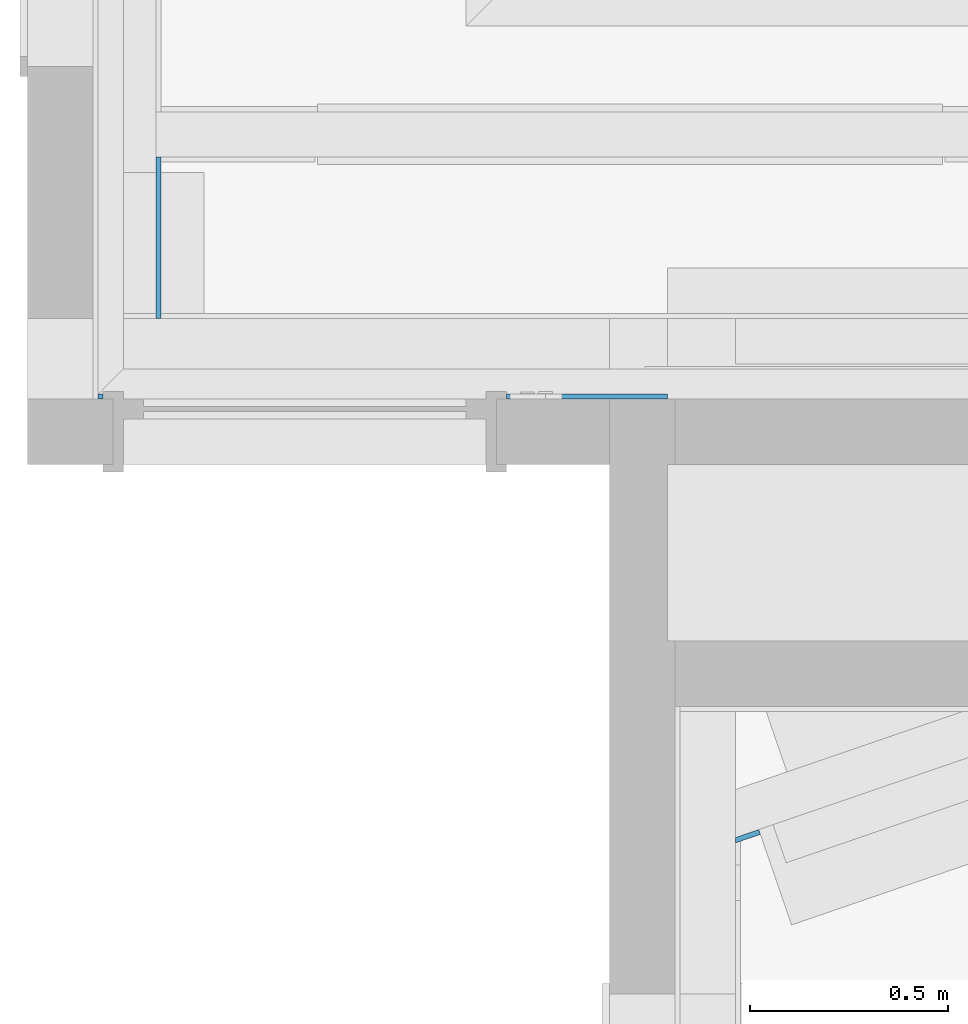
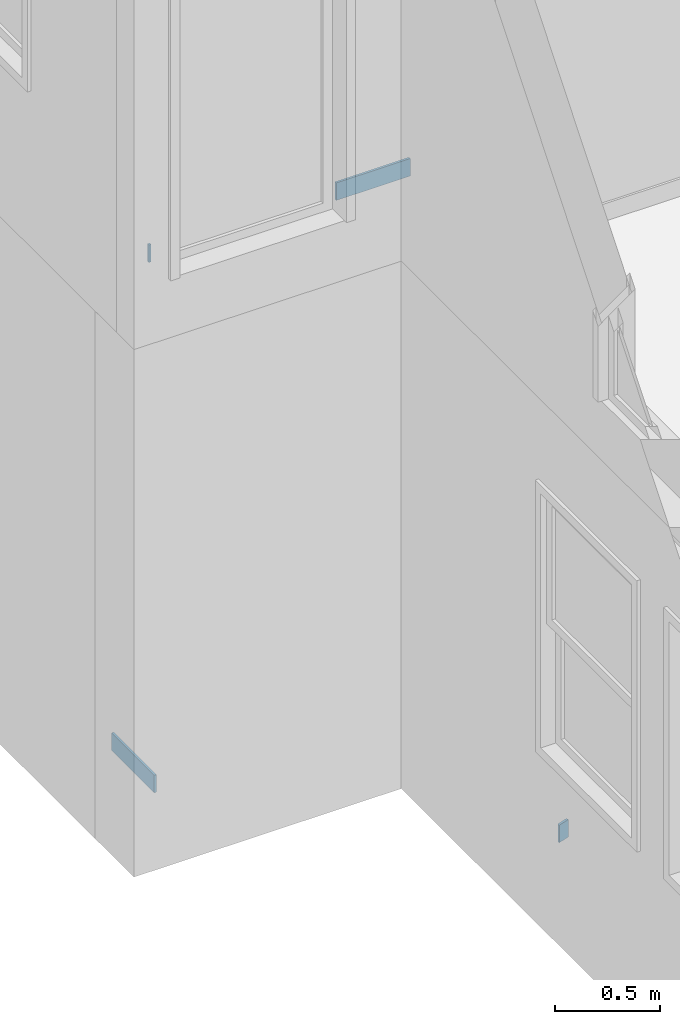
# One storey, part 18 of 60: 4 walls.
"""IFC2X3 building model written with IfcOpenShell, lengths in feet."""

from ifc_helpers import new_model, entity, si_unit, converted_unit, direction, frame, frame_2d, origin, place, context, subcontext, project, spatial, polyline, rectangle, outline, extrude, material, layer, layer_set, layer_usage, type_object, element, save


model = new_model("IFC2X3")

# Units and contexts
model_context = context("Model", 3, precision=0.0001, world=origin(), true_north=direction((6.123031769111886e-17, 1.0)))
plan_context = context("Plan", 3, precision=0.0001, world=origin(), true_north=direction((6.123031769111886e-17, 1.0)))
body_context = subcontext(model_context, "Body", "Model", "MODEL_VIEW")
ifc_project = project(units=[converted_unit("LENGTHUNIT", "FOOT", entity("IfcLengthMeasure", 0.3048), si_unit("LENGTHUNIT", "METRE"), dimensions=[1, 0, 0, 0, 0, 0, 0]), converted_unit("AREAUNIT", "SQUARE FOOT", entity("IfcAreaMeasure", 0.09290304), si_unit("AREAUNIT", "SQUARE_METRE"), dimensions=[2, 0, 0, 0, 0, 0, 0]), converted_unit("PLANEANGLEUNIT", "DEGREE", entity("IfcPlaneAngleMeasure", 0.017453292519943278), si_unit("PLANEANGLEUNIT", "RADIAN"), dimensions=[0, 0, 0, 0, 0, 0, 0])], contexts=[model_context, plan_context])

# Site, building, storey
site_placement = place(None, origin())
site = spatial("IfcSite", under=ifc_project, at=site_placement, Name="Default", CompositionType="ELEMENT")
building_placement = place(site_placement, origin())
building = spatial("IfcBuilding", under=site, at=building_placement, CompositionType="ELEMENT")
storey_placement = place(building_placement, origin())
storey = spatial("IfcBuildingStorey", under=building, at=storey_placement, Name="First floor", CompositionType="ELEMENT", Elevation=0.0)

# Walls
ifc_material = material(Name="Default New Material")
ifc_layer = layer(ifc_material, 0.041666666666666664)
ifc_layer_set = layer_set([ifc_layer], Name="Basic Wall:Wall Border_T1")
ifc_layer_usage_1 = layer_usage(ifc_layer_set, "AXIS2", "NEGATIVE", 0.020833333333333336)
wall_type = type_object("IfcWallType", Name="Basic Wall:Wall Border_T1", PredefinedType="STANDARD", material=ifc_layer_set)
wall_1_placement = place(storey_placement, frame((-15.802026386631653, 28.00435691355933, 0.0), z_axis=(0.0, 0.0, 1.0), x_axis=(-0.9456865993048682, -0.3250797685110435, 0.0)))
element("IfcWallStandardCase", 1, at=wall_1_placement, inside=storey, type_object=wall_type, material=ifc_layer_usage_1, Name="Basic Wall:Wall Border_T1", ObjectType="Basic Wall:Wall Border_T1", context=body_context, shape_type="SweptSolid", body=[
    extrude(outline(polyline([(0.20218232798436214, -0.020833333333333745), (0.21650524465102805, 0.020833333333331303), (0.17244554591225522, 0.020833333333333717), (0.0, 0.020833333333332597), (0.0, -0.020833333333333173), (0.20218232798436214, -0.020833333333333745)])), origin(), (0.0, 0.0, 1.0), 0.3333333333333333),
])
ifc_layer_usage_2 = layer_usage(ifc_layer_set, "AXIS2", "NEGATIVE", 0.020833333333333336)
wall_2_placement = place(storey_placement, frame((-20.77083333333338, 33.58333333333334, 0.0), z_axis=(0.0, 0.0, 1.0), x_axis=(0.0, -1.0, 0.0)))
element("IfcWallStandardCase", 2, at=wall_2_placement, inside=storey, type_object=wall_type, material=ifc_layer_usage_2, Name="Basic Wall:Wall Border_T1", ObjectType="Basic Wall:Wall Border_T1", context=body_context, shape_type="SweptSolid", body=[
    extrude(rectangle(XDim=1.33333333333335, YDim=0.0416666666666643, at=frame_2d((0.666666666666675, 0.0), x_axis=(-1.0, 0.0))), origin(), (0.0, 0.0, 1.0), 0.33333333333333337),
])
ifc_layer_usage_3 = layer_usage(ifc_layer_set, "AXIS2", "NEGATIVE", 0.020833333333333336)
wall_3_placement = place(storey_placement, frame((-21.22916666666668, 31.604166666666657, 10.666666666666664), z_axis=(0.0, 0.0, 1.0), x_axis=(-1.0, 0.0, 0.0)))
element("IfcWallStandardCase", 3, at=wall_3_placement, inside=storey, type_object=wall_type, material=ifc_layer_usage_3, Name="Basic Wall:Wall Border_T1", ObjectType="Basic Wall:Wall Border_T1", context=body_context, shape_type="SweptSolid", body=[
    extrude(rectangle(XDim=0.041666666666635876, YDim=0.0416666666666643, at=frame_2d((0.020833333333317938, 0.0), x_axis=(-1.0, 0.0))), origin(), (0.0, 0.0, 1.0), 0.3333333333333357),
])
ifc_layer_usage_4 = layer_usage(ifc_layer_set, "AXIS2", "NEGATIVE", 0.020833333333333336)
wall_4_placement = place(storey_placement, frame((-16.562488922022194, 31.604166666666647, 10.666666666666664), z_axis=(0.0, 0.0, 1.0), x_axis=(-1.0, 0.0, 0.0)))
element("IfcWallStandardCase", 4, at=wall_4_placement, inside=storey, type_object=wall_type, material=ifc_layer_usage_4, Name="Basic Wall:Wall Border_T1", ObjectType="Basic Wall:Wall Border_T1", context=body_context, shape_type="SweptSolid", body=[
    extrude(rectangle(XDim=1.3333444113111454, YDim=0.0416666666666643, at=frame_2d((0.6666722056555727, 0.0), x_axis=(-1.0, 0.0))), origin(), (0.0, 0.0, 1.0), 0.3333333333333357),
])

save(model, "model.ifc")
